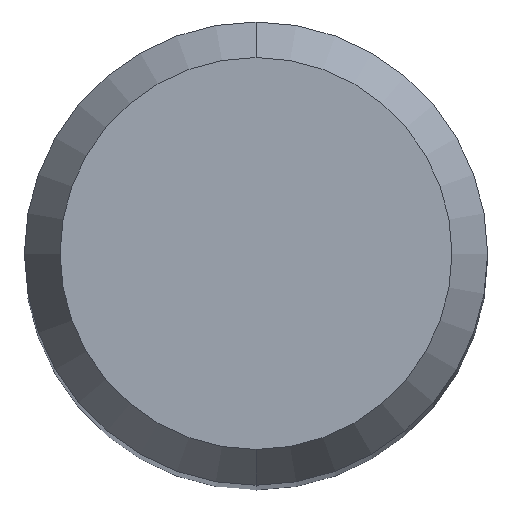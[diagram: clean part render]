
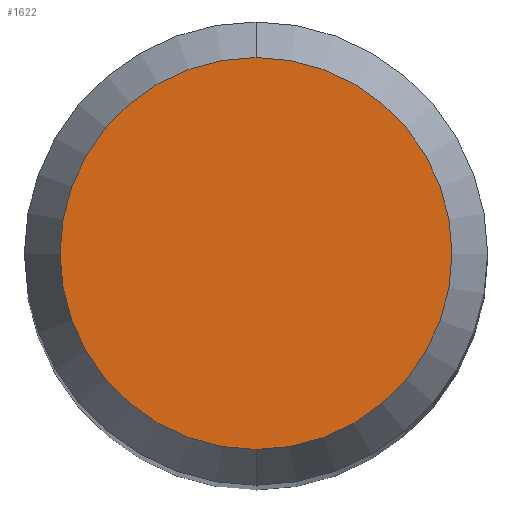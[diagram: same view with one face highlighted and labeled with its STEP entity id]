
A CAD part, top view. The second image highlights one B-rep face of the part: STEP entity #1622.
In plain terms, the highlighted planar face has unit normal (0, 0, 1).
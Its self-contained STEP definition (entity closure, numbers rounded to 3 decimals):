
#824=EDGE_CURVE('',#852,#2098,#2257,.T.);
#852=VERTEX_POINT('',#2287);
#1622=ADVANCED_FACE('',(#3123),#3124,.T.);
#2000=EDGE_CURVE('',#2098,#852,#3537,.T.);
#2098=VERTEX_POINT('',#3649);
#2257=CIRCLE('',#4158,2.538);
#2287=CARTESIAN_POINT('',(0.0,2.538,0.0));
#3123=FACE_OUTER_BOUND('',#12275,.T.);
#3124=PLANE('',#12276);
#3537=CIRCLE('',#16470,2.538);
#3649=CARTESIAN_POINT('',(0.,-2.538,0.0));
#4158=AXIS2_PLACEMENT_3D('',#18057,#18058,#18059);
#12275=EDGE_LOOP('',(#18859,#18860));
#12276=AXIS2_PLACEMENT_3D('',#18861,#18862,#18863);
#16470=AXIS2_PLACEMENT_3D('',#19270,#19271,#19272);
#18057=CARTESIAN_POINT('',(0.0,0.0,0.0));
#18058=DIRECTION('',(0.0,0.0,-1.0));
#18059=DIRECTION('',(0.0,1.0,0.0));
#18859=ORIENTED_EDGE('',*,*,#824,.F.);
#18860=ORIENTED_EDGE('',*,*,#2000,.F.);
#18861=CARTESIAN_POINT('',(0.0,1.269,0.0));
#18862=DIRECTION('',(-0.0,0.0,1.0));
#18863=DIRECTION('',(0.0,-1.0,0.0));
#19270=CARTESIAN_POINT('',(0.0,0.0,0.0));
#19271=DIRECTION('',(0.0,0.0,-1.0));
#19272=DIRECTION('',(0.0,1.0,0.0));
